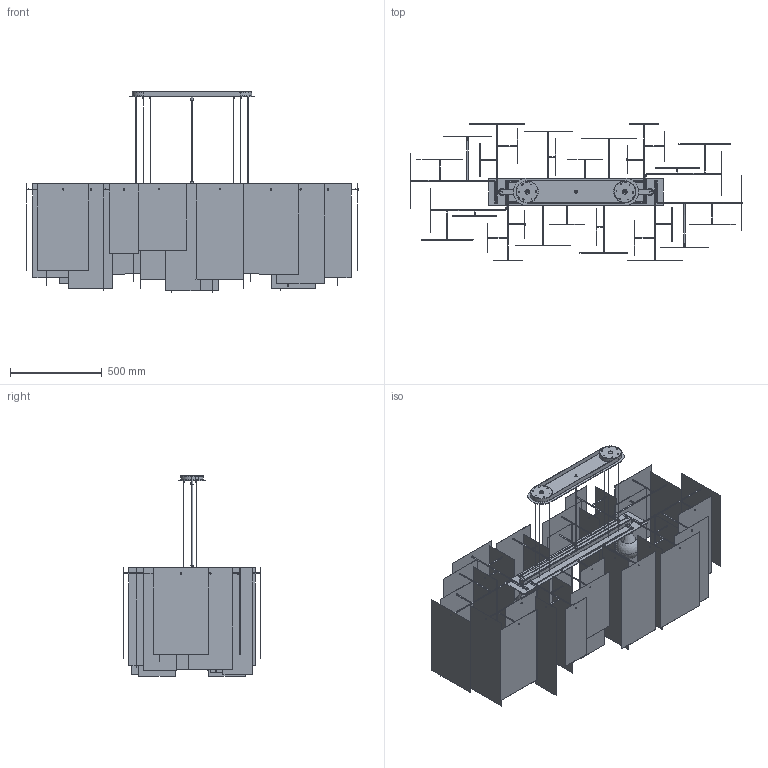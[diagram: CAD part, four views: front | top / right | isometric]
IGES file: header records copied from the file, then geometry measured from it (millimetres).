
Global section: file name: No Iges File Name specified; native system: AutoDesk Inventor R11.0; preprocessor: AutoDesk Inventor Iges Exporter R11.0; author: No Author specified; organization: No Organization specified; date: 20150819.101457; units: millimetre
Bounding box: 1805 x 745 x 1092.09 mm (x, y, z)
Volume: 7724658 mm3; surface area: 8750577.8 mm2
Topology: 96 solids, 96 shells, 1825 faces, 4490 edges, 2872 vertices
Faces by surface type: plane 680, cylinder 436, bspline 369, revolution 128, cone 116, torus 92, sphere 4
